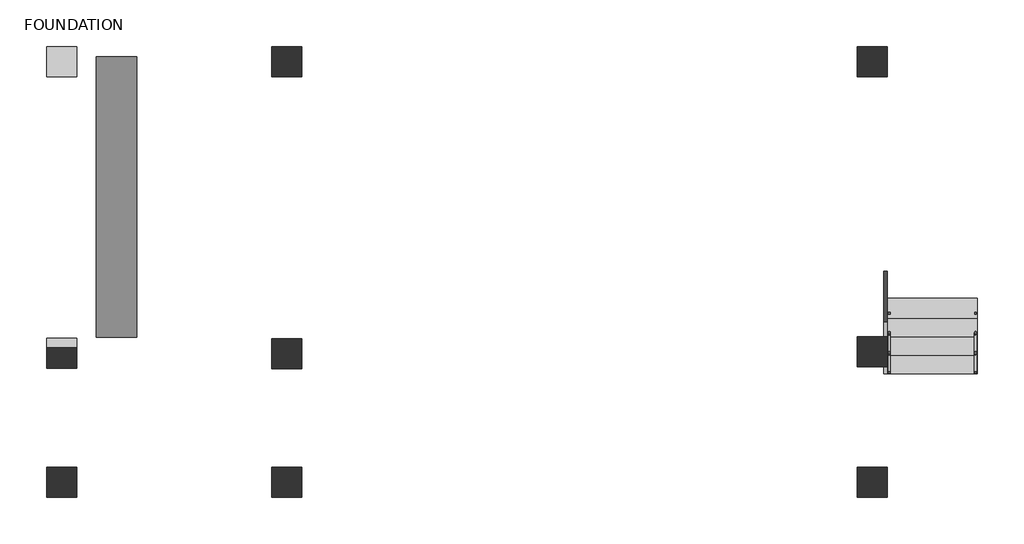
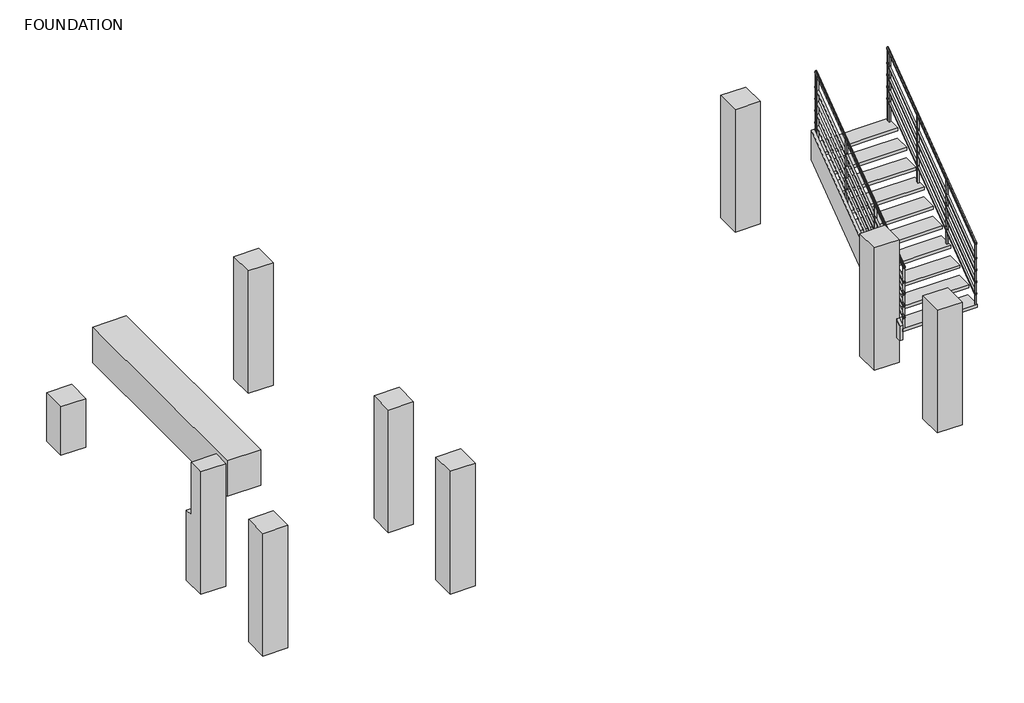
# One storey: 9 columns, 2 railings, 1 furniture element, 1 member, 1 stair flight.
"""IFC4 building model written with IfcOpenShell, lengths in millimetres."""

from ifc_helpers import new_model, si_unit, frame, origin, place, context, project, spatial, polyline, circle_curve, ellipse_curve, outline, extrude, transform, mapped, element, save
from ifc_brep_helpers import plane_surface, cylinder_surface, advanced_brep
from components import furniture_170e7c11, stair_flight_9cd476aa

model = new_model("IFC4")

# Units and contexts
model_context = context("Model", 3, world=origin())
ifc_project = project(units=[si_unit("LENGTHUNIT", "METRE", prefix="MILLI")], contexts=[model_context])

# Site, building, storey
site = spatial("IfcSite", under=ifc_project)
building = spatial("IfcBuilding", under=site)
storey = spatial("IfcBuildingStorey", under=building, Name="FOUNDATION", Elevation=-2430.0)

# Columns
placement = place(None, origin())
element("IfcColumn", 1, ObjectType="矩形柱 : 400x400", at=placement, inside=storey, context=model_context, shape_type="SweptSolid", body=[
    extrude(outline(polyline([(-1241.7095556, -2430.0), (-1241.7095556, -355.0), (-968.8593137, -355.0), (-968.8593137, -1250.0), (-841.7095556, -1250.0), (-841.7095556, -2430.0), (-1241.7095556, -2430.0)])), frame((-5971.467766, 0.0, 0.0), z_axis=(1.0, 0.0, 0.0), x_axis=(0.0, 1.0, 0.0)), (0.0, 0.0, 1.0), 400.0),
])
element("IfcColumn", 2, ObjectType="矩形柱 : 400x400", at=placement, inside=storey, context=model_context, shape_type="SweptSolid", body=[
    extrude(outline(polyline([(-5571.467766, -2563.1095556), (-5571.467766, -2963.1095556), (-5971.467766, -2963.1095556), (-5971.467766, -2563.1095556), (-5571.467766, -2563.1095556)])), frame((0.0, 0.0, -2430.0), z_axis=(0.0, 0.0, 1.0), x_axis=(1.0, 0.0, 0.0)), (0.0, 0.0, 1.0), 2075.0),
])
element("IfcColumn", 3, ObjectType="矩形柱 : 400x400", at=placement, inside=storey, context=model_context, shape_type="SweptSolid", body=[
    extrude(outline(polyline([(-2969.667766, 3041.6904444), (-2569.667766, 3041.6904444), (-2569.667766, 2641.6904444), (-2969.667766, 2641.6904444), (-2969.667766, 3041.6904444)])), frame((0.0, 0.0, -2430.0), z_axis=(0.0, 0.0, 1.0), x_axis=(1.0, 0.0, 0.0)), (0.0, 0.0, 1.0), 2075.0),
])
element("IfcColumn", 4, ObjectType="矩形柱 : 400x400", at=placement, inside=storey, context=model_context, shape_type="SweptSolid", body=[
    extrude(outline(polyline([(-2569.667766, -847.7095556), (-2569.667766, -1247.7095556), (-2969.667766, -1247.7095556), (-2969.667766, -847.7095556), (-2569.667766, -847.7095556)])), frame((0.0, 0.0, -2430.0), z_axis=(0.0, 0.0, 1.0), x_axis=(1.0, 0.0, 0.0)), (0.0, 0.0, 1.0), 2075.0),
])
element("IfcColumn", 5, ObjectType="矩形柱 : 400x400", at=placement, inside=storey, context=model_context, shape_type="SweptSolid", body=[
    extrude(outline(polyline([(-2569.667766, -2563.1095556), (-2569.667766, -2963.1095556), (-2969.667766, -2963.1095556), (-2969.667766, -2563.1095556), (-2569.667766, -2563.1095556)])), frame((0.0, 0.0, -2430.0), z_axis=(0.0, 0.0, 1.0), x_axis=(1.0, 0.0, 0.0)), (0.0, 0.0, 1.0), 2075.0),
])
element("IfcColumn", 6, ObjectType="矩形柱 : 400x400", at=placement, inside=storey, context=model_context, shape_type="SweptSolid", body=[
    extrude(outline(polyline([(5228.032234, 3041.6904444), (5228.032234, 2641.6904444), (4828.032234, 2641.6904444), (4828.032234, 3041.6904444), (5228.032234, 3041.6904444)])), frame((0.0, 0.0, -2430.0), z_axis=(0.0, 0.0, 1.0), x_axis=(1.0, 0.0, 0.0)), (0.0, 0.0, 1.0), 2075.0),
])
element("IfcColumn", 7, ObjectType="矩形柱 : 400x400", at=placement, inside=storey, context=model_context, shape_type="SweptSolid", body=[
    extrude(outline(polyline([(5228.032234, -821.7095556), (5228.032234, -1221.7095556), (4828.032234, -1221.7095556), (4828.032234, -821.7095556), (5228.032234, -821.7095556)])), frame((0.0, 0.0, -2430.0), z_axis=(0.0, 0.0, 1.0), x_axis=(1.0, 0.0, 0.0)), (0.0, 0.0, 1.0), 2075.0),
])
element("IfcColumn", 8, ObjectType="矩形柱 : 400x400", at=placement, inside=storey, context=model_context, shape_type="SweptSolid", body=[
    extrude(outline(polyline([(5228.132234, -2563.1095556), (5228.132234, -2963.1095556), (4828.132234, -2963.1095556), (4828.132234, -2563.1095556), (5228.132234, -2563.1095556)])), frame((0.0, 0.0, -2430.0), z_axis=(0.0, 0.0, 1.0), x_axis=(1.0, 0.0, 0.0)), (0.0, 0.0, 1.0), 2075.0),
])
element("IfcColumn", 9, ObjectType="矩形柱 : 400x400", at=placement, inside=storey, context=model_context, shape_type="SweptSolid", body=[
    extrude(outline(polyline([(-5971.467766, 3041.6904444), (-5571.467766, 3041.6904444), (-5571.467766, 2641.6904444), (-5971.467766, 2641.6904444), (-5971.467766, 3041.6904444)])), frame((0.0, 0.0, -2430.0), z_axis=(0.0, 0.0, 1.0), x_axis=(1.0, 0.0, 0.0)), (0.0, 0.0, 1.0), 820.0),
])

# Furniture
furniture_shape = furniture_170e7c11(model_context)
element("IfcFurniture", 10, ObjectType="家具 1 : 家具 1", at=placement, inside=storey, context=model_context, shape_type="MappedRepresentation", body=[
    mapped(furniture_shape, transform((-1000.0, 0.0, 0.0), x_axis=(1.0, 0.0, 0.0), y_axis=(0.0, 1.0, 0.0), z_axis=(0.0, 0.0, 1.0))),
])

# Member
element("IfcMember", 11, ObjectType="梯边梁 - 50mm 宽度", at=placement, inside=storey, context=model_context, shape_type="SweptSolid", body=[
    extrude(outline(polyline([(-1313.3095556, -1995.0), (-1313.3095556, -1747.8011396), (1136.6904444, 84.0170422), (1136.6904444, -415.4269229), (-975.939552, -1995.0), (-1313.3095556, -1995.0)])), frame((5182.232234, 0.0, 0.0), z_axis=(1.0, 0.0, 0.0), x_axis=(0.0, 1.0, 0.0)), (0.0, 0.0, 1.0), 46.0),
])

# Railings
element("IfcRailing", 12, ObjectType="900mm 圆管", at=placement, inside=storey, context=model_context, shape_type="SolidModel", body=[
    extrude(outline(polyline([(-1313.3095556, -786.7903801), (-1313.3095556, -761.8181818), (1136.6904444, 1070.0), (1136.6904444, 1045.0278017), (-1313.3095556, -786.7903801)])), frame((6392.832234, 0.0, 0.0), z_axis=(1.0, 0.0, 0.0), x_axis=(0.0, 1.0, 0.0)), (0.0, 0.0, 1.0), 20.0),
    advanced_brep(
    [(6387.832234, -1313.3095556, -1630.5473305), (6417.832234, -1313.3095556, -1630.5473305), (6387.832234, 1136.6904444, 201.2708513), (6417.832234, 1136.6904444, 201.2708513)],
    [
        (0, 1, ellipse_curve(frame((6402.832234, -1313.3095556, -1630.5473305), z_axis=(0.0, -1.0, 0.0), x_axis=(0.0, 0.0, -1.0)), 18.7291487, 15.0)),
        (1, 0, ellipse_curve(frame((6402.832234, -1313.3095556, -1630.5473305), z_axis=(0.0, -1.0, 0.0), x_axis=(0.0, 0.0, -1.0)), 18.7291487, 15.0)),
        (2, 3, ellipse_curve(frame((6402.832234, 1136.6904444, 201.2708513), z_axis=(0.0, 1.0, 0.0), x_axis=(0.0, 0.0, -1.0)), 18.7291487, 15.0)),
        (3, 2, ellipse_curve(frame((6402.832234, 1136.6904444, 201.2708513), z_axis=(0.0, 1.0, 0.0), x_axis=(0.0, 0.0, -1.0)), 18.7291487, 15.0)),
        (0, 2),
        (3, 1),
    ],
    [
        plane_surface(frame((6402.832234, -1313.3095556, -1611.8181818), z_axis=(0.0, -1.0, 0.0), x_axis=(0.0, 0.0, 1.0))),
        plane_surface(frame((6402.832234, 1136.6904444, 220.0), z_axis=(0.0, 1.0, 0.0), x_axis=(0.0, 0.0, 1.0))),
        cylinder_surface(frame((6402.832234, -1304.3273961, -1623.8315415), z_axis=(0.0, -0.8008906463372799, -0.5988106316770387), x_axis=(1.0, 0.0, 0.0)), 15.0),
    ],
    [
        (0, [[1, 2]]),
        (1, [[3, 4]]),
        (2, [[-1, 5, -4, 6]]),
        (2, [[-2, -6, -3, -5]]),
    ],
),
    advanced_brep(
    [(6387.832234, -1313.3095556, -1430.5473305), (6417.832234, -1313.3095556, -1430.5473305), (6387.832234, 1136.6904444, 401.2708513), (6417.832234, 1136.6904444, 401.2708513)],
    [
        (0, 1, ellipse_curve(frame((6402.832234, -1313.3095556, -1430.5473305), z_axis=(0.0, -1.0, 0.0), x_axis=(0.0, 0.0, -1.0)), 18.7291487, 15.0)),
        (1, 0, ellipse_curve(frame((6402.832234, -1313.3095556, -1430.5473305), z_axis=(0.0, -1.0, 0.0), x_axis=(0.0, 0.0, -1.0)), 18.7291487, 15.0)),
        (2, 3, ellipse_curve(frame((6402.832234, 1136.6904444, 401.2708513), z_axis=(0.0, 1.0, 0.0), x_axis=(0.0, 0.0, -1.0)), 18.7291487, 15.0)),
        (3, 2, ellipse_curve(frame((6402.832234, 1136.6904444, 401.2708513), z_axis=(0.0, 1.0, 0.0), x_axis=(0.0, 0.0, -1.0)), 18.7291487, 15.0)),
        (0, 2),
        (3, 1),
    ],
    [
        plane_surface(frame((6402.832234, -1313.3095556, -1411.8181818), z_axis=(0.0, -1.0, 0.0), x_axis=(0.0, 0.0, 1.0))),
        plane_surface(frame((6402.832234, 1136.6904444, 420.0), z_axis=(0.0, 1.0, 0.0), x_axis=(0.0, 0.0, 1.0))),
        cylinder_surface(frame((6402.832234, -1304.3273961, -1423.8315415), z_axis=(0.0, -0.8008906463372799, -0.5988106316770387), x_axis=(1.0, 0.0, 0.0)), 15.0),
    ],
    [
        (0, [[1, 2]]),
        (1, [[3, 4]]),
        (2, [[-1, 5, -4, 6]]),
        (2, [[-2, -6, -3, -5]]),
    ],
),
    advanced_brep(
    [(6387.832234, -1313.3095556, -1230.5473305), (6417.832234, -1313.3095556, -1230.5473305), (6387.832234, 1136.6904444, 601.2708513), (6417.832234, 1136.6904444, 601.2708513)],
    [
        (0, 1, ellipse_curve(frame((6402.832234, -1313.3095556, -1230.5473305), z_axis=(0.0, -1.0, 0.0), x_axis=(0.0, 0.0, -1.0)), 18.7291487, 15.0)),
        (1, 0, ellipse_curve(frame((6402.832234, -1313.3095556, -1230.5473305), z_axis=(0.0, -1.0, 0.0), x_axis=(0.0, 0.0, -1.0)), 18.7291487, 15.0)),
        (2, 3, ellipse_curve(frame((6402.832234, 1136.6904444, 601.2708513), z_axis=(0.0, 1.0, 0.0), x_axis=(0.0, 0.0, -1.0)), 18.7291487, 15.0)),
        (3, 2, ellipse_curve(frame((6402.832234, 1136.6904444, 601.2708513), z_axis=(0.0, 1.0, 0.0), x_axis=(0.0, 0.0, -1.0)), 18.7291487, 15.0)),
        (0, 2),
        (3, 1),
    ],
    [
        plane_surface(frame((6402.832234, -1313.3095556, -1211.8181818), z_axis=(0.0, -1.0, 0.0), x_axis=(0.0, 0.0, 1.0))),
        plane_surface(frame((6402.832234, 1136.6904444, 620.0), z_axis=(0.0, 1.0, 0.0), x_axis=(0.0, 0.0, 1.0))),
        cylinder_surface(frame((6402.832234, -1304.3273961, -1223.8315415), z_axis=(0.0, -0.8008906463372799, -0.5988106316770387), x_axis=(1.0, 0.0, 0.0)), 15.0),
    ],
    [
        (0, [[1, 2]]),
        (1, [[3, 4]]),
        (2, [[-1, 5, -4, 6]]),
        (2, [[-2, -6, -3, -5]]),
    ],
),
    advanced_brep(
    [(6387.832234, -1313.3095556, -1030.5473305), (6417.832234, -1313.3095556, -1030.5473305), (6387.832234, 1136.6904444, 801.2708513), (6417.832234, 1136.6904444, 801.2708513)],
    [
        (0, 1, ellipse_curve(frame((6402.832234, -1313.3095556, -1030.5473305), z_axis=(0.0, -1.0, 0.0), x_axis=(0.0, 0.0, -1.0)), 18.7291487, 15.0)),
        (1, 0, ellipse_curve(frame((6402.832234, -1313.3095556, -1030.5473305), z_axis=(0.0, -1.0, 0.0), x_axis=(0.0, 0.0, -1.0)), 18.7291487, 15.0)),
        (2, 3, ellipse_curve(frame((6402.832234, 1136.6904444, 801.2708513), z_axis=(0.0, 1.0, 0.0), x_axis=(0.0, 0.0, -1.0)), 18.7291487, 15.0)),
        (3, 2, ellipse_curve(frame((6402.832234, 1136.6904444, 801.2708513), z_axis=(0.0, 1.0, 0.0), x_axis=(0.0, 0.0, -1.0)), 18.7291487, 15.0)),
        (0, 2),
        (3, 1),
    ],
    [
        plane_surface(frame((6402.832234, -1313.3095556, -1011.8181818), z_axis=(0.0, -1.0, 0.0), x_axis=(0.0, 0.0, 1.0))),
        plane_surface(frame((6402.832234, 1136.6904444, 820.0), z_axis=(0.0, 1.0, 0.0), x_axis=(0.0, 0.0, 1.0))),
        cylinder_surface(frame((6402.832234, -1304.3273961, -1023.8315415), z_axis=(0.0, -0.8008906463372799, -0.5988106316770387), x_axis=(1.0, 0.0, 0.0)), 15.0),
    ],
    [
        (0, [[1, 2]]),
        (1, [[3, 4]]),
        (2, [[-1, 5, -4, 6]]),
        (2, [[-2, -6, -3, -5]]),
    ],
),
    advanced_brep(
    [(6387.832234, -1313.3095556, -780.5473305), (6417.832234, -1313.3095556, -780.5473305), (6387.832234, 1136.6904444, 1051.2708513), (6417.832234, 1136.6904444, 1051.2708513)],
    [
        (0, 1, ellipse_curve(frame((6402.832234, -1313.3095556, -780.5473305), z_axis=(0.0, -1.0, 0.0), x_axis=(0.0, 0.0, -1.0)), 18.7291487, 15.0)),
        (1, 0, ellipse_curve(frame((6402.832234, -1313.3095556, -780.5473305), z_axis=(0.0, -1.0, 0.0), x_axis=(0.0, 0.0, -1.0)), 18.7291487, 15.0)),
        (2, 3, ellipse_curve(frame((6402.832234, 1136.6904444, 1051.2708513), z_axis=(0.0, 1.0, 0.0), x_axis=(0.0, 0.0, -1.0)), 18.7291487, 15.0)),
        (3, 2, ellipse_curve(frame((6402.832234, 1136.6904444, 1051.2708513), z_axis=(0.0, 1.0, 0.0), x_axis=(0.0, 0.0, -1.0)), 18.7291487, 15.0)),
        (0, 2),
        (3, 1),
    ],
    [
        plane_surface(frame((6402.832234, -1313.3095556, -761.8181818), z_axis=(0.0, -1.0, 0.0), x_axis=(0.0, 0.0, 1.0))),
        plane_surface(frame((6402.832234, 1136.6904444, 1070.0), z_axis=(0.0, 1.0, 0.0), x_axis=(0.0, 0.0, 1.0))),
        cylinder_surface(frame((6402.832234, -1304.3273961, -773.8315415), z_axis=(0.0, -0.8008906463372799, -0.5988106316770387), x_axis=(1.0, 0.0, 0.0)), 15.0),
    ],
    [
        (0, [[1, 2]]),
        (1, [[3, 4]]),
        (2, [[-1, 5, -4, 6]]),
        (2, [[-2, -6, -3, -5]]),
    ],
),
    extrude(outline(polyline([(1074.1904444, -163.1818182), (1074.1904444, 998.2977461), (1099.1904444, 1016.9897684), (1099.1904444, -163.1818182), (1074.1904444, -163.1818182)])), frame((6390.332234, 0.0, 0.0), z_axis=(1.0, 0.0, 0.0), x_axis=(0.0, 1.0, 0.0)), (0.0, 0.0, 1.0), 25.0),
    extrude(outline(polyline([(274.1904444, -712.7272727), (274.1904444, 400.1530337), (299.1904444, 418.8450559), (299.1904444, -712.7272727), (274.1904444, -712.7272727)])), frame((6390.332234, 0.0, 0.0), z_axis=(1.0, 0.0, 0.0), x_axis=(0.0, 1.0, 0.0)), (0.0, 0.0, 1.0), 25.0),
    extrude(outline(polyline([(-525.8095556, -1262.2727273), (-525.8095556, -197.9916788), (-500.8095556, -179.2996565), (-500.8095556, -1262.2727273), (-525.8095556, -1262.2727273)])), frame((6390.332234, 0.0, 0.0), z_axis=(1.0, 0.0, 0.0), x_axis=(0.0, 1.0, 0.0)), (0.0, 0.0, 1.0), 25.0),
    advanced_brep(
    [(6415.332234, 1124.1904444, 1035.6817906), (6415.332234, 1124.1904444, -163.1818182), (6390.332234, 1124.1904444, -163.1818182), (6390.332234, 1124.1904444, 1035.6817906)],
    [
        (0, 1),
        (1, 2, circle_curve(frame((6402.832234, 1124.1904444, -163.1818182), z_axis=(0.0, 0.0, 1.0), x_axis=(-1.0, 0.0, 0.0)), 12.5)),
        (2, 3),
        (3, 0, ellipse_curve(frame((6402.832234, 1124.1904444, 1035.6817906), z_axis=(0.0, 0.5988106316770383, -0.8008906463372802), x_axis=(0.0, 0.8008906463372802, 0.598810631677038)), 15.6076239, 12.5)),
        (0, 3, ellipse_curve(frame((6402.832234, 1124.1904444, 1035.6817906), z_axis=(0.0, 0.5988106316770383, -0.8008906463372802), x_axis=(0.0, 0.8008906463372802, 0.598810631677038)), 15.6076239, 12.5)),
        (2, 1, circle_curve(frame((6402.832234, 1124.1904444, -163.1818182), z_axis=(0.0, 0.0, 1.0), x_axis=(-1.0, 0.0, 0.0)), 12.5)),
    ],
    [
        cylinder_surface(frame((6402.832234, 1124.1904444, -263.1818182), z_axis=(0.0, 0.0, 1.0), x_axis=(-1.0, 0.0, 0.0)), 12.5),
        plane_surface(frame((6377.832234, 1149.1904444, 1054.3738129), z_axis=(0.0, -0.5988106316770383, 0.8008906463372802), x_axis=(1.0, 0.0, 0.0))),
        plane_surface(frame((6377.832234, 1099.1904444, -163.1818182), z_axis=(0.0, 0.0, -1.0), x_axis=(1.0, 0.0, 0.0))),
    ],
    [
        (0, [[1, 2, 3, 4]]),
        (0, [[-1, 5, -3, 6]]),
        (1, [[-4, -5]]),
        (2, [[-2, -6]]),
    ],
),
    advanced_brep(
    [(6415.332234, -1300.8095556, -777.4443689), (6415.332234, -1300.8095556, -1811.8181818), (6390.332234, -1300.8095556, -1811.8181818), (6390.332234, -1300.8095556, -777.4443689)],
    [
        (0, 1),
        (1, 2, circle_curve(frame((6402.832234, -1300.8095556, -1811.8181818), z_axis=(0.0, 0.0, 1.0), x_axis=(-1.0, 0.0, 0.0)), 12.5)),
        (2, 3),
        (3, 0, ellipse_curve(frame((6402.832234, -1300.8095556, -777.4443689), z_axis=(0.0, 0.5988106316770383, -0.8008906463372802), x_axis=(0.0, 0.8008906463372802, 0.598810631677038)), 15.6076239, 12.5)),
        (0, 3, ellipse_curve(frame((6402.832234, -1300.8095556, -777.4443689), z_axis=(0.0, 0.5988106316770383, -0.8008906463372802), x_axis=(0.0, 0.8008906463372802, 0.598810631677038)), 15.6076239, 12.5)),
        (2, 1, circle_curve(frame((6402.832234, -1300.8095556, -1811.8181818), z_axis=(0.0, 0.0, 1.0), x_axis=(-1.0, 0.0, 0.0)), 12.5)),
    ],
    [
        cylinder_surface(frame((6402.832234, -1300.8095556, -1911.8181818), z_axis=(0.0, 0.0, 1.0), x_axis=(-1.0, 0.0, 0.0)), 12.5),
        plane_surface(frame((6377.832234, -1275.8095556, -758.7523467), z_axis=(0.0, -0.5988106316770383, 0.8008906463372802), x_axis=(1.0, 0.0, 0.0))),
        plane_surface(frame((6377.832234, -1325.8095556, -1811.8181818), z_axis=(0.0, 0.0, -1.0), x_axis=(1.0, 0.0, 0.0))),
    ],
    [
        (0, [[1, 2, 3, 4]]),
        (0, [[-1, 5, -3, 6]]),
        (1, [[-4, -5]]),
        (2, [[-2, -6]]),
    ],
),
])
element("IfcRailing", 13, ObjectType="900mm 圆管", at=placement, inside=storey, context=model_context, shape_type="SolidModel", body=[
    extrude(outline(polyline([(-1313.3095556, -786.7903801), (-1313.3095556, -761.8181818), (1136.6904444, 1070.0), (1136.6904444, 1045.0278017), (-1313.3095556, -786.7903801)])), frame((5243.632234, 0.0, 0.0), z_axis=(1.0, 0.0, 0.0), x_axis=(0.0, 1.0, 0.0)), (0.0, 0.0, 1.0), 20.0),
    advanced_brep(
    [(5268.632234, -1313.3095556, -1630.5473305), (5238.632234, -1313.3095556, -1630.5473305), (5268.632234, 1136.6904444, 201.2708513), (5238.632234, 1136.6904444, 201.2708513)],
    [
        (0, 1, ellipse_curve(frame((5253.632234, -1313.3095556, -1630.5473305), z_axis=(0.0, -1.0, 0.0), x_axis=(0.0, 0.0, -1.0)), 18.7291487, 15.0)),
        (1, 0, ellipse_curve(frame((5253.632234, -1313.3095556, -1630.5473305), z_axis=(0.0, -1.0, 0.0), x_axis=(0.0, 0.0, -1.0)), 18.7291487, 15.0)),
        (2, 3, ellipse_curve(frame((5253.632234, 1136.6904444, 201.2708513), z_axis=(0.0, 1.0, 0.0), x_axis=(0.0, 0.0, -1.0)), 18.7291487, 15.0)),
        (3, 2, ellipse_curve(frame((5253.632234, 1136.6904444, 201.2708513), z_axis=(0.0, 1.0, 0.0), x_axis=(0.0, 0.0, -1.0)), 18.7291487, 15.0)),
        (0, 2),
        (3, 1),
    ],
    [
        plane_surface(frame((5253.632234, -1313.3095556, -1611.8181818), z_axis=(0.0, -1.0, 0.0), x_axis=(0.0, 0.0, 1.0))),
        plane_surface(frame((5253.632234, 1136.6904444, 220.0), z_axis=(0.0, 1.0, 0.0), x_axis=(0.0, 0.0, 1.0))),
        cylinder_surface(frame((5253.632234, -1304.3273961, -1623.8315415), z_axis=(0.0, -0.8008906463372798, -0.5988106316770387), x_axis=(-1.0, 0.0, 0.0)), 15.0),
    ],
    [
        (0, [[1, 2]]),
        (1, [[3, 4]]),
        (2, [[-1, 5, -4, 6]]),
        (2, [[-2, -6, -3, -5]]),
    ],
),
    advanced_brep(
    [(5268.632234, -1313.3095556, -1430.5473305), (5238.632234, -1313.3095556, -1430.5473305), (5268.632234, 1136.6904444, 401.2708513), (5238.632234, 1136.6904444, 401.2708513)],
    [
        (0, 1, ellipse_curve(frame((5253.632234, -1313.3095556, -1430.5473305), z_axis=(0.0, -1.0, 0.0), x_axis=(0.0, 0.0, -1.0)), 18.7291487, 15.0)),
        (1, 0, ellipse_curve(frame((5253.632234, -1313.3095556, -1430.5473305), z_axis=(0.0, -1.0, 0.0), x_axis=(0.0, 0.0, -1.0)), 18.7291487, 15.0)),
        (2, 3, ellipse_curve(frame((5253.632234, 1136.6904444, 401.2708513), z_axis=(0.0, 1.0, 0.0), x_axis=(0.0, 0.0, -1.0)), 18.7291487, 15.0)),
        (3, 2, ellipse_curve(frame((5253.632234, 1136.6904444, 401.2708513), z_axis=(0.0, 1.0, 0.0), x_axis=(0.0, 0.0, -1.0)), 18.7291487, 15.0)),
        (0, 2),
        (3, 1),
    ],
    [
        plane_surface(frame((5253.632234, -1313.3095556, -1411.8181818), z_axis=(0.0, -1.0, 0.0), x_axis=(0.0, 0.0, 1.0))),
        plane_surface(frame((5253.632234, 1136.6904444, 420.0), z_axis=(0.0, 1.0, 0.0), x_axis=(0.0, 0.0, 1.0))),
        cylinder_surface(frame((5253.632234, -1304.3273961, -1423.8315415), z_axis=(0.0, -0.8008906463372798, -0.5988106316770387), x_axis=(-1.0, 0.0, 0.0)), 15.0),
    ],
    [
        (0, [[1, 2]]),
        (1, [[3, 4]]),
        (2, [[-1, 5, -4, 6]]),
        (2, [[-2, -6, -3, -5]]),
    ],
),
    advanced_brep(
    [(5268.632234, -1313.3095556, -1230.5473305), (5238.632234, -1313.3095556, -1230.5473305), (5268.632234, 1136.6904444, 601.2708513), (5238.632234, 1136.6904444, 601.2708513)],
    [
        (0, 1, ellipse_curve(frame((5253.632234, -1313.3095556, -1230.5473305), z_axis=(0.0, -1.0, 0.0), x_axis=(0.0, 0.0, -1.0)), 18.7291487, 15.0)),
        (1, 0, ellipse_curve(frame((5253.632234, -1313.3095556, -1230.5473305), z_axis=(0.0, -1.0, 0.0), x_axis=(0.0, 0.0, -1.0)), 18.7291487, 15.0)),
        (2, 3, ellipse_curve(frame((5253.632234, 1136.6904444, 601.2708513), z_axis=(0.0, 1.0, 0.0), x_axis=(0.0, 0.0, -1.0)), 18.7291487, 15.0)),
        (3, 2, ellipse_curve(frame((5253.632234, 1136.6904444, 601.2708513), z_axis=(0.0, 1.0, 0.0), x_axis=(0.0, 0.0, -1.0)), 18.7291487, 15.0)),
        (0, 2),
        (3, 1),
    ],
    [
        plane_surface(frame((5253.632234, -1313.3095556, -1211.8181818), z_axis=(0.0, -1.0, 0.0), x_axis=(0.0, 0.0, 1.0))),
        plane_surface(frame((5253.632234, 1136.6904444, 620.0), z_axis=(0.0, 1.0, 0.0), x_axis=(0.0, 0.0, 1.0))),
        cylinder_surface(frame((5253.632234, -1304.3273961, -1223.8315415), z_axis=(0.0, -0.8008906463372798, -0.5988106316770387), x_axis=(-1.0, 0.0, 0.0)), 15.0),
    ],
    [
        (0, [[1, 2]]),
        (1, [[3, 4]]),
        (2, [[-1, 5, -4, 6]]),
        (2, [[-2, -6, -3, -5]]),
    ],
),
    advanced_brep(
    [(5268.632234, -1313.3095556, -1030.5473305), (5238.632234, -1313.3095556, -1030.5473305), (5268.632234, 1136.6904444, 801.2708513), (5238.632234, 1136.6904444, 801.2708513)],
    [
        (0, 1, ellipse_curve(frame((5253.632234, -1313.3095556, -1030.5473305), z_axis=(0.0, -1.0, 0.0), x_axis=(0.0, 0.0, -1.0)), 18.7291487, 15.0)),
        (1, 0, ellipse_curve(frame((5253.632234, -1313.3095556, -1030.5473305), z_axis=(0.0, -1.0, 0.0), x_axis=(0.0, 0.0, -1.0)), 18.7291487, 15.0)),
        (2, 3, ellipse_curve(frame((5253.632234, 1136.6904444, 801.2708513), z_axis=(0.0, 1.0, 0.0), x_axis=(0.0, 0.0, -1.0)), 18.7291487, 15.0)),
        (3, 2, ellipse_curve(frame((5253.632234, 1136.6904444, 801.2708513), z_axis=(0.0, 1.0, 0.0), x_axis=(0.0, 0.0, -1.0)), 18.7291487, 15.0)),
        (0, 2),
        (3, 1),
    ],
    [
        plane_surface(frame((5253.632234, -1313.3095556, -1011.8181818), z_axis=(0.0, -1.0, 0.0), x_axis=(0.0, 0.0, 1.0))),
        plane_surface(frame((5253.632234, 1136.6904444, 820.0), z_axis=(0.0, 1.0, 0.0), x_axis=(0.0, 0.0, 1.0))),
        cylinder_surface(frame((5253.632234, -1304.3273961, -1023.8315415), z_axis=(0.0, -0.8008906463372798, -0.5988106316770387), x_axis=(-1.0, 0.0, 0.0)), 15.0),
    ],
    [
        (0, [[1, 2]]),
        (1, [[3, 4]]),
        (2, [[-1, 5, -4, 6]]),
        (2, [[-2, -6, -3, -5]]),
    ],
),
    advanced_brep(
    [(5268.632234, -1313.3095556, -780.5473305), (5238.632234, -1313.3095556, -780.5473305), (5268.632234, 1136.6904444, 1051.2708513), (5238.632234, 1136.6904444, 1051.2708513)],
    [
        (0, 1, ellipse_curve(frame((5253.632234, -1313.3095556, -780.5473305), z_axis=(0.0, -1.0, 0.0), x_axis=(0.0, 0.0, -1.0)), 18.7291487, 15.0)),
        (1, 0, ellipse_curve(frame((5253.632234, -1313.3095556, -780.5473305), z_axis=(0.0, -1.0, 0.0), x_axis=(0.0, 0.0, -1.0)), 18.7291487, 15.0)),
        (2, 3, ellipse_curve(frame((5253.632234, 1136.6904444, 1051.2708513), z_axis=(0.0, 1.0, 0.0), x_axis=(0.0, 0.0, -1.0)), 18.7291487, 15.0)),
        (3, 2, ellipse_curve(frame((5253.632234, 1136.6904444, 1051.2708513), z_axis=(0.0, 1.0, 0.0), x_axis=(0.0, 0.0, -1.0)), 18.7291487, 15.0)),
        (0, 2),
        (3, 1),
    ],
    [
        plane_surface(frame((5253.632234, -1313.3095556, -761.8181818), z_axis=(0.0, -1.0, 0.0), x_axis=(0.0, 0.0, 1.0))),
        plane_surface(frame((5253.632234, 1136.6904444, 1070.0), z_axis=(0.0, 1.0, 0.0), x_axis=(0.0, 0.0, 1.0))),
        cylinder_surface(frame((5253.632234, -1304.3273961, -773.8315415), z_axis=(0.0, -0.8008906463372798, -0.5988106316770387), x_axis=(-1.0, 0.0, 0.0)), 15.0),
    ],
    [
        (0, [[1, 2]]),
        (1, [[3, 4]]),
        (2, [[-1, 5, -4, 6]]),
        (2, [[-2, -6, -3, -5]]),
    ],
),
    extrude(outline(polyline([(1074.1904444, 998.2977461), (1099.1904444, 1016.9897684), (1099.1904444, -163.1818182), (1074.1904444, -163.1818182), (1074.1904444, 998.2977461)])), frame((5241.132234, 0.0, 0.0), z_axis=(1.0, 0.0, 0.0), x_axis=(0.0, 1.0, 0.0)), (0.0, 0.0, 1.0), 25.0),
    extrude(outline(polyline([(274.1904444, 400.1530337), (299.1904444, 418.8450559), (299.1904444, -712.7272727), (274.1904444, -712.7272727), (274.1904444, 400.1530337)])), frame((5241.132234, 0.0, 0.0), z_axis=(1.0, 0.0, 0.0), x_axis=(0.0, 1.0, 0.0)), (0.0, 0.0, 1.0), 25.0),
    extrude(outline(polyline([(-525.8095556, -197.9916788), (-500.8095556, -179.2996565), (-500.8095556, -1262.2727273), (-525.8095556, -1262.2727273), (-525.8095556, -197.9916788)])), frame((5241.132234, 0.0, 0.0), z_axis=(1.0, 0.0, 0.0), x_axis=(0.0, 1.0, 0.0)), (0.0, 0.0, 1.0), 25.0),
    advanced_brep(
    [(5241.132234, 1124.1904444, 1035.6817906), (5266.132234, 1124.1904444, 1035.6817906), (5266.132234, 1124.1904444, -163.1818182), (5241.132234, 1124.1904444, -163.1818182)],
    [
        (0, 1, ellipse_curve(frame((5253.632234, 1124.1904444, 1035.6817906), z_axis=(0.0, 0.5988106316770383, -0.8008906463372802), x_axis=(0.0, 0.8008906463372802, 0.598810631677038)), 15.6076239, 12.5)),
        (1, 2),
        (2, 3, circle_curve(frame((5253.632234, 1124.1904444, -163.1818182), z_axis=(0.0, 0.0, 1.0), x_axis=(1.0, 0.0, 0.0)), 12.5)),
        (3, 0),
        (3, 2, circle_curve(frame((5253.632234, 1124.1904444, -163.1818182), z_axis=(0.0, 0.0, 1.0), x_axis=(1.0, 0.0, 0.0)), 12.5)),
        (1, 0, ellipse_curve(frame((5253.632234, 1124.1904444, 1035.6817906), z_axis=(0.0, 0.5988106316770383, -0.8008906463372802), x_axis=(0.0, 0.8008906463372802, 0.598810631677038)), 15.6076239, 12.5)),
    ],
    [
        cylinder_surface(frame((5253.632234, 1124.1904444, -263.1818182), z_axis=(0.0, 0.0, 1.0), x_axis=(1.0, 0.0, 0.0)), 12.5),
        plane_surface(frame((5278.632234, 1149.1904444, 1054.3738129), z_axis=(0.0, -0.5988106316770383, 0.8008906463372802), x_axis=(-1.0, 0.0, 0.0))),
        plane_surface(frame((5278.632234, 1099.1904444, -163.1818182), z_axis=(0.0, 0.0, -1.0), x_axis=(-1.0, 0.0, 0.0))),
    ],
    [
        (0, [[1, 2, 3, 4]]),
        (0, [[5, -2, 6, -4]]),
        (1, [[-6, -1]]),
        (2, [[-5, -3]]),
    ],
),
    advanced_brep(
    [(5241.132234, -1300.8095556, -777.4443689), (5266.132234, -1300.8095556, -777.4443689), (5266.132234, -1300.8095556, -1811.8181818), (5241.132234, -1300.8095556, -1811.8181818)],
    [
        (0, 1, ellipse_curve(frame((5253.632234, -1300.8095556, -777.4443689), z_axis=(0.0, 0.5988106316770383, -0.8008906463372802), x_axis=(0.0, 0.8008906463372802, 0.598810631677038)), 15.6076239, 12.5)),
        (1, 2),
        (2, 3, circle_curve(frame((5253.632234, -1300.8095556, -1811.8181818), z_axis=(0.0, 0.0, 1.0), x_axis=(1.0, 0.0, 0.0)), 12.5)),
        (3, 0),
        (3, 2, circle_curve(frame((5253.632234, -1300.8095556, -1811.8181818), z_axis=(0.0, 0.0, 1.0), x_axis=(1.0, 0.0, 0.0)), 12.5)),
        (1, 0, ellipse_curve(frame((5253.632234, -1300.8095556, -777.4443689), z_axis=(0.0, 0.5988106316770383, -0.8008906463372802), x_axis=(0.0, 0.8008906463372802, 0.598810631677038)), 15.6076239, 12.5)),
    ],
    [
        cylinder_surface(frame((5253.632234, -1300.8095556, -1911.8181818), z_axis=(0.0, 0.0, 1.0), x_axis=(1.0, 0.0, 0.0)), 12.5),
        plane_surface(frame((5278.632234, -1275.8095556, -758.7523467), z_axis=(0.0, -0.5988106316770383, 0.8008906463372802), x_axis=(-1.0, 0.0, 0.0))),
        plane_surface(frame((5278.632234, -1325.8095556, -1811.8181818), z_axis=(0.0, 0.0, -1.0), x_axis=(-1.0, 0.0, 0.0))),
    ],
    [
        (0, [[1, 2, 3, 4]]),
        (0, [[5, -2, 6, -4]]),
        (1, [[-6, -1]]),
        (2, [[-5, -3]]),
    ],
),
])

# Stair flight
stair_flight_shape = stair_flight_9cd476aa(model_context)
element("IfcStairFlight", 14, ObjectType="50mm 踏板 13mm 踢面", at=placement, inside=storey, context=model_context, shape_type="MappedRepresentation", body=[
    mapped(stair_flight_shape, transform((0.0, 0.0, 0.0), x_axis=(1.0, 0.0, 0.0), y_axis=(0.0, 1.0, 0.0), z_axis=(0.0, 0.0, 1.0))),
])

save(model, "model.ifc")
